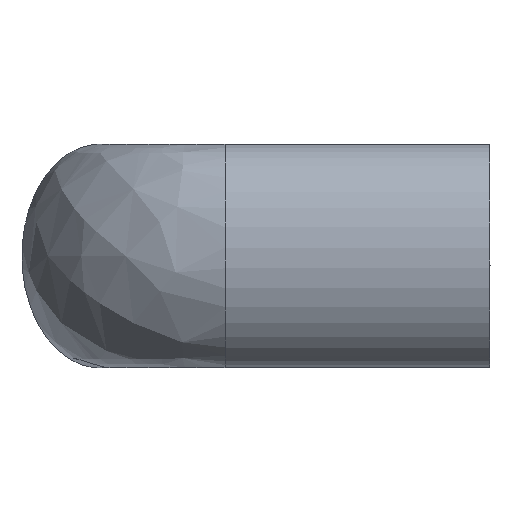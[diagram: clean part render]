
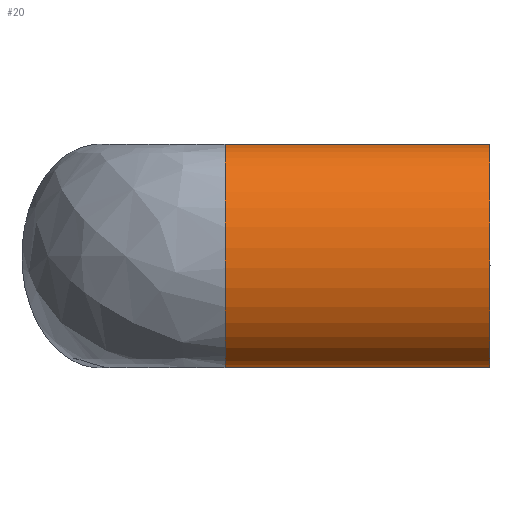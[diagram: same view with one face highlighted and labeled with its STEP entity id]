
A CAD part, left-side view. The second image highlights one B-rep face of the part: STEP entity #20.
In plain terms, the highlighted free-form (B-spline) face has degree [1, 3] with [2, 4] control points.
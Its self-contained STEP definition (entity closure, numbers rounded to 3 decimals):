
#20=ADVANCED_FACE('',(#94),#1222,.T.);
#94=FACE_OUTER_BOUND('',#168,.T.);
#168=EDGE_LOOP('',(#256,#257,#258,#259));
#256=ORIENTED_EDGE('',*,*,#645,.F.);
#257=ORIENTED_EDGE('',*,*,#646,.T.);
#258=ORIENTED_EDGE('',*,*,#643,.T.);
#259=ORIENTED_EDGE('',*,*,#758,.F.);
#643=EDGE_CURVE('',#1036,#1110,#907,.T.);
#645=EDGE_CURVE('',#1037,#1111,#909,.T.);
#646=EDGE_CURVE('',#1037,#1036,#910,.T.);
#758=EDGE_CURVE('',#1111,#1110,#982,.T.);
#907=(
BOUNDED_CURVE()
B_SPLINE_CURVE(3,(#4274,#4275,#4276,#4277),.UNSPECIFIED.,.F.,.F.)
B_SPLINE_CURVE_WITH_KNOTS((4,4),(-137.2,-68.6),.UNSPECIFIED.)
CURVE()
GEOMETRIC_REPRESENTATION_ITEM()
RATIONAL_B_SPLINE_CURVE((1.,0.333,0.333,1.))
REPRESENTATION_ITEM('')
);
#909=(
BOUNDED_CURVE()
B_SPLINE_CURVE(3,(#4282,#4283,#4284,#4285),.UNSPECIFIED.,.F.,.F.)
B_SPLINE_CURVE_WITH_KNOTS((4,4),(-137.2,-68.6),.UNSPECIFIED.)
CURVE()
GEOMETRIC_REPRESENTATION_ITEM()
RATIONAL_B_SPLINE_CURVE((1.,0.333,0.333,1.))
REPRESENTATION_ITEM('')
);
#910=(
BOUNDED_CURVE()
B_SPLINE_CURVE(1,(#4286,#4287),.UNSPECIFIED.,.F.,.F.)
B_SPLINE_CURVE_WITH_KNOTS((2,2),(0.,33.9),
 .UNSPECIFIED.)
CURVE()
GEOMETRIC_REPRESENTATION_ITEM()
RATIONAL_B_SPLINE_CURVE((1.,1.))
REPRESENTATION_ITEM('')
);
#982=(
BOUNDED_CURVE()
B_SPLINE_CURVE(1,(#5770,#5771),.UNSPECIFIED.,.F.,.F.)
B_SPLINE_CURVE_WITH_KNOTS((2,2),(0.,33.9),.UNSPECIFIED.)
CURVE()
GEOMETRIC_REPRESENTATION_ITEM()
RATIONAL_B_SPLINE_CURVE((1.,1.))
REPRESENTATION_ITEM('')
);
#1036=VERTEX_POINT('',#4126);
#1037=VERTEX_POINT('',#4127);
#1110=VERTEX_POINT('',#4200);
#1111=VERTEX_POINT('',#4201);
#1222=(
BOUNDED_SURFACE()
B_SPLINE_SURFACE(1,3,((#1492,#1493,#1494,#1495),(#1496,#1497,#1498,#1499)),
 .UNSPECIFIED.,.F.,.F.,.F.)
B_SPLINE_SURFACE_WITH_KNOTS((2,2),(4,4),(0.,33.9),(0.,68.6),
 .UNSPECIFIED.)
GEOMETRIC_REPRESENTATION_ITEM()
RATIONAL_B_SPLINE_SURFACE(((1.,0.333,0.333,1.),
(1.,0.333,0.333,1.)))
REPRESENTATION_ITEM('')
SURFACE()
);
#1492=CARTESIAN_POINT('',(-90.,0.,14.3));
#1493=CARTESIAN_POINT('',(-110.,0.,14.3));
#1494=CARTESIAN_POINT('',(-110.,0.,-14.3));
#1495=CARTESIAN_POINT('',(-90.,0.,-14.3));
#1496=CARTESIAN_POINT('',(-90.,33.9,14.3));
#1497=CARTESIAN_POINT('',(-110.,33.9,14.3));
#1498=CARTESIAN_POINT('',(-110.,33.9,-14.3));
#1499=CARTESIAN_POINT('',(-90.,33.9,-14.3));
#4126=CARTESIAN_POINT('',(-90.,33.9,14.3));
#4127=CARTESIAN_POINT('',(-90.,0.,14.3));
#4200=CARTESIAN_POINT('',(-90.,33.9,-14.3));
#4201=CARTESIAN_POINT('',(-90.,0.,-14.3));
#4274=CARTESIAN_POINT('',(-90.,33.9,14.3));
#4275=CARTESIAN_POINT('',(-110.,33.9,14.3));
#4276=CARTESIAN_POINT('',(-110.,33.9,-14.3));
#4277=CARTESIAN_POINT('',(-90.,33.9,-14.3));
#4282=CARTESIAN_POINT('',(-90.,0.,14.3));
#4283=CARTESIAN_POINT('',(-110.,0.,14.3));
#4284=CARTESIAN_POINT('',(-110.,0.,-14.3));
#4285=CARTESIAN_POINT('',(-90.,0.,-14.3));
#4286=CARTESIAN_POINT('',(-90.,0.,14.3));
#4287=CARTESIAN_POINT('',(-90.,33.9,14.3));
#5770=CARTESIAN_POINT('',(-90.,0.,-14.3));
#5771=CARTESIAN_POINT('',(-90.,33.9,-14.3));
